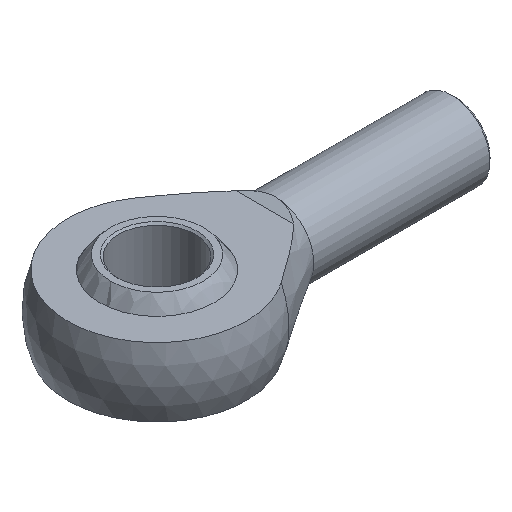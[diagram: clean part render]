
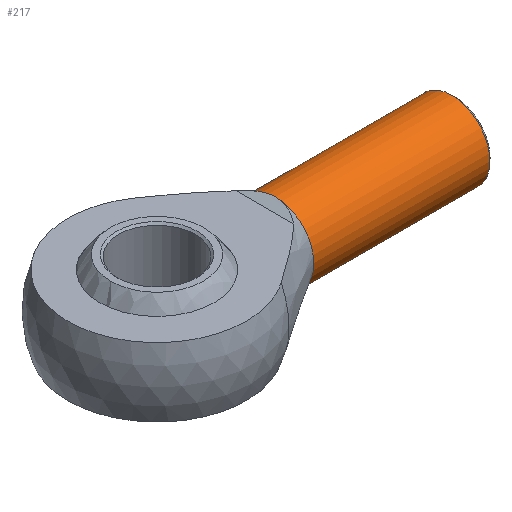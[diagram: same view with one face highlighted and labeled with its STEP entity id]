
A CAD part, isometric view. The second image highlights one B-rep face of the part: STEP entity #217.
In plain terms, the highlighted cylindrical face has radius 10 mm (diameter 20 mm), a full revolution.
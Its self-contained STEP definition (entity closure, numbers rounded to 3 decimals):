
#2 = CYLINDRICAL_SURFACE ( 'NONE', #261, 10. ) ;
#12 = AXIS2_PLACEMENT_3D ( 'NONE', #84, #387, #89 ) ;
#30 = EDGE_LOOP ( 'NONE', ( #646, #866 ) ) ;
#84 = CARTESIAN_POINT ( 'NONE',  ( 31., 0., 0. ) ) ;
#89 = DIRECTION ( 'NONE',  ( 0., 0., 1. ) ) ;
#90 = CARTESIAN_POINT ( 'NONE',  ( 31., 0., 0. ) ) ;
#91 = AXIS2_PLACEMENT_3D ( 'NONE', #245, #164, #608 ) ;
#118 = AXIS2_PLACEMENT_3D ( 'NONE', #90, #821, #917 ) ;
#130 = CIRCLE ( 'NONE', #91, 10. ) ;
#164 = DIRECTION ( 'NONE',  ( 1., 0., 0. ) ) ;
#217 = ADVANCED_FACE ( 'NONE', ( #284, #891 ), #2, .T. ) ;
#245 = CARTESIAN_POINT ( 'NONE',  ( 77.08, 0., 0. ) ) ;
#261 = AXIS2_PLACEMENT_3D ( 'NONE', #456, #554, #316 ) ;
#284 = FACE_OUTER_BOUND ( 'NONE', #938, .T. ) ;
#313 = EDGE_CURVE ( 'NONE', #893, #893, #130, .T. ) ;
#316 = DIRECTION ( 'NONE',  ( 0., 0., -1. ) ) ;
#387 = DIRECTION ( 'NONE',  ( 1., 0., 0. ) ) ;
#456 = CARTESIAN_POINT ( 'NONE',  ( 78., 0., 0. ) ) ;
#519 = CARTESIAN_POINT ( 'NONE',  ( 77.08, 0., -10. ) ) ;
#523 = CARTESIAN_POINT ( 'NONE',  ( 31., 0., -10. ) ) ;
#539 = ORIENTED_EDGE ( 'NONE', *, *, #313, .F. ) ;
#554 = DIRECTION ( 'NONE',  ( 1., 0., 0. ) ) ;
#608 = DIRECTION ( 'NONE',  ( 0., 0., -1. ) ) ;
#642 = EDGE_CURVE ( 'NONE', #875, #931, #924, .T. ) ;
#646 = ORIENTED_EDGE ( 'NONE', *, *, #642, .T. ) ;
#692 = CIRCLE ( 'NONE', #12, 10. ) ;
#816 = CARTESIAN_POINT ( 'NONE',  ( 31., 0., 10. ) ) ;
#821 = DIRECTION ( 'NONE',  ( 1., 0., 0. ) ) ;
#866 = ORIENTED_EDGE ( 'NONE', *, *, #879, .T. ) ;
#875 = VERTEX_POINT ( 'NONE', #523 ) ;
#879 = EDGE_CURVE ( 'NONE', #931, #875, #692, .T. ) ;
#891 = FACE_OUTER_BOUND ( 'NONE', #30, .T. ) ;
#893 = VERTEX_POINT ( 'NONE', #519 ) ;
#917 = DIRECTION ( 'NONE',  ( 0., 0., -1. ) ) ;
#924 = CIRCLE ( 'NONE', #118, 10. ) ;
#931 = VERTEX_POINT ( 'NONE', #816 ) ;
#938 = EDGE_LOOP ( 'NONE', ( #539 ) ) ;
